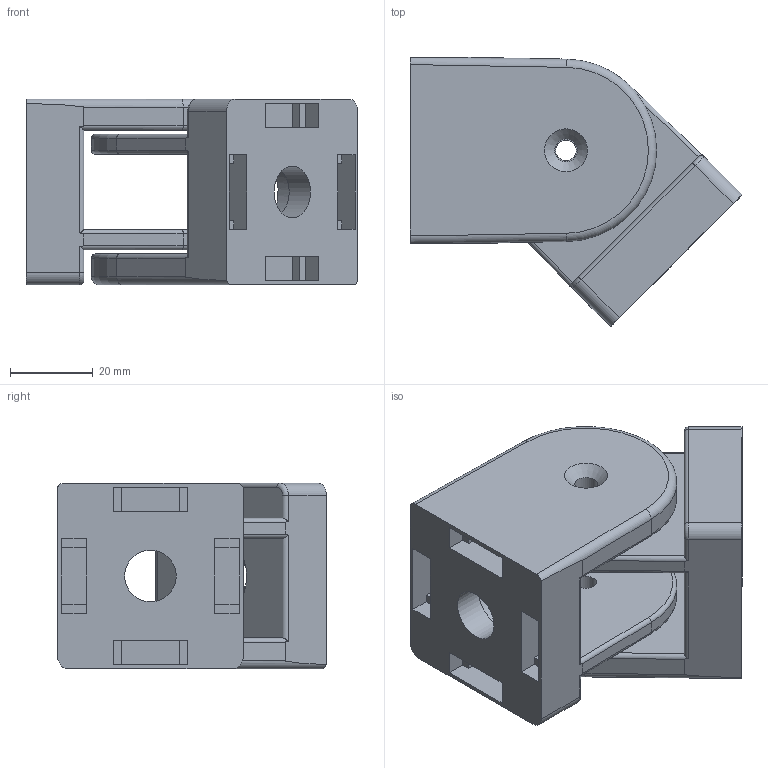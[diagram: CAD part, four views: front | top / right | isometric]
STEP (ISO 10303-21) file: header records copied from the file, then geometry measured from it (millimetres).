
FILE_DESCRIPTION (( 'STEP AP214' ), '1' );
FILE_NAME ('SN06002.step', '2024-12-03T16:31:56', ( '' ), ( '' ), 'SwSTEP 2.0', 'SolidWorks 2023', '' );
FILE_SCHEMA (( 'AUTOMOTIVE_DESIGN' ));
Length unit declared in the file: millimetre
Products named in the file (2): SN06002
Assembly tree (2 placements, depth 2):
  SN06002
    SN06002  x2
Bounding box: 80.35 x 65.1 x 45 mm (x, y, z)
Volume: 89705.5 mm3; surface area: 32328.9 mm2
Topology: 2 solids, 2 shells, 160 faces, 414 edges, 266 vertices
Faces by surface type: plane 104, cylinder 42, torus 12, cone 2
Full cylindrical faces by diameter (mm): 5 x2, 5.5 x2, 12.5 x2, 18.3 x2
Entity records: 2520 total; most frequent: CARTESIAN_POINT 550, ORIENTED_EDGE 402, DIRECTION 385, EDGE_CURVE 201, VECTOR 143, LINE 143, VERTEX_POINT 132, AXIS2_PLACEMENT_3D 121
